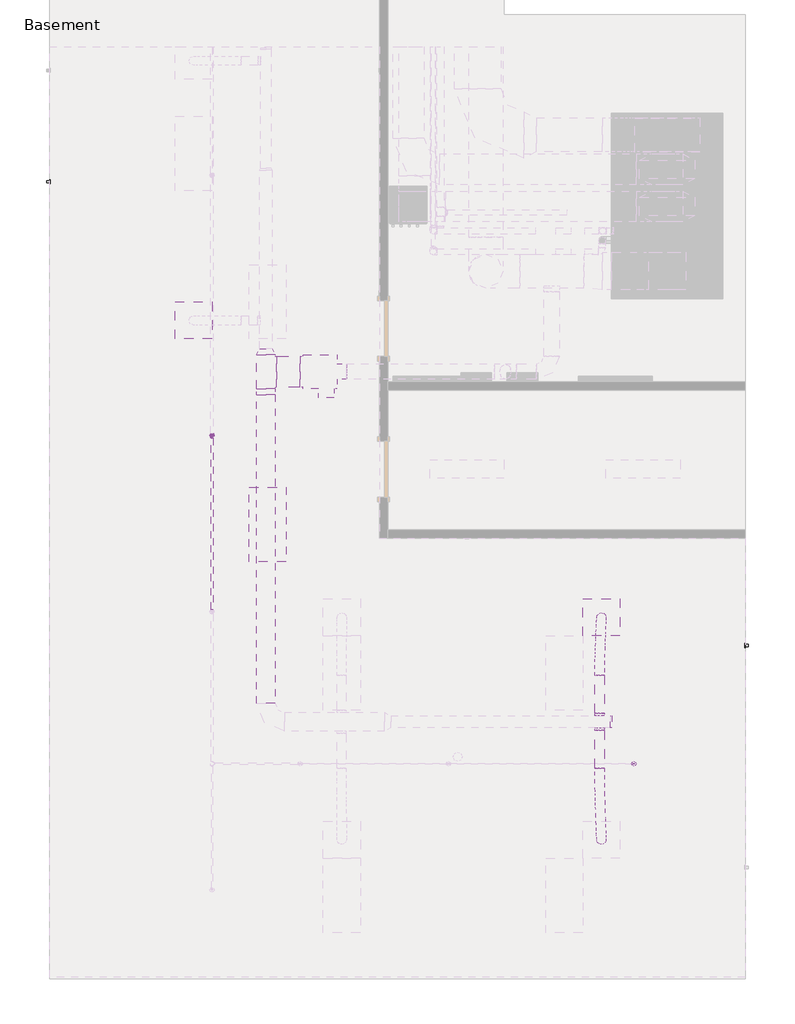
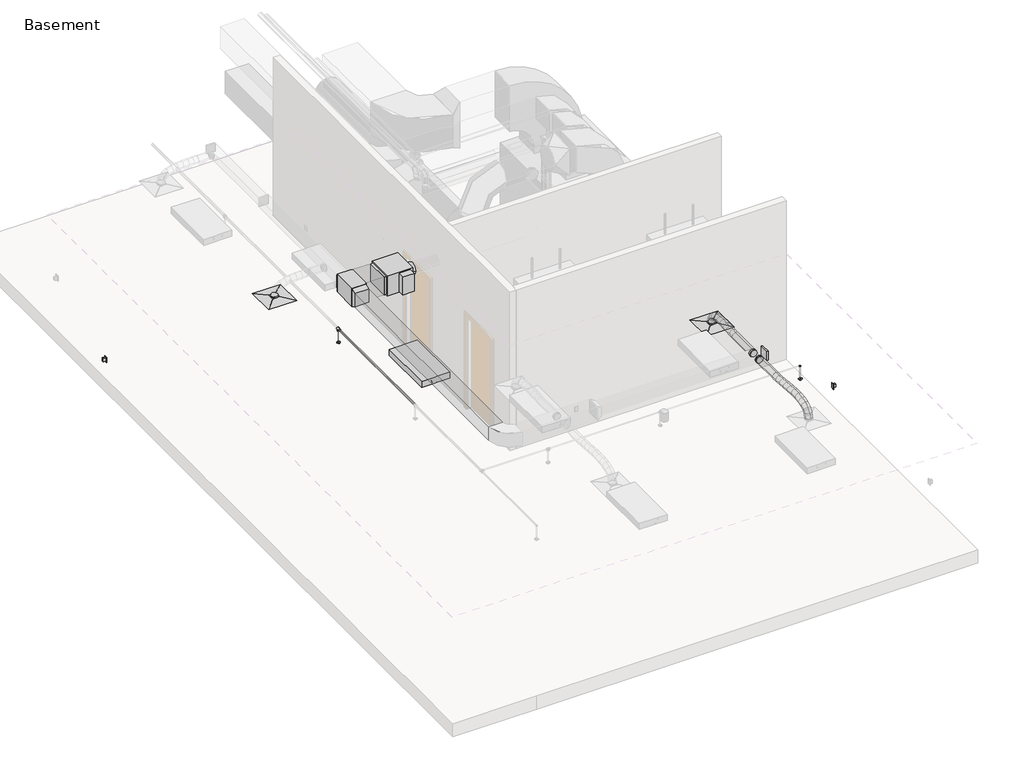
# One storey, part 3 of 6: 6 duct fittings, 6 duct segments, 5 pipe fittings, 3 pipe segments, 3 proxies, 2 air terminals, 2 fire suppression terminals, 1 light fixture.
"""IFC4 building model written with IfcOpenShell, lengths in millimetres."""

from ifc_helpers import new_model, si_unit, point, frame, frame_2d, origin, place, context, project, spatial, polyline, circle_curve, ellipse_curve, trimmed, segment, composite_curve, outline, extrude, transform, mapped, element, save
from ifc_brep_helpers import plane_surface, cylinder_surface, advanced_brep
from components import rectangular_diffuser_round_connection_24x24_6_neck_a21b6d18, receptacle_gfci_367a9a66, shut_off_vav_10_inch_df6e8142, rectangular_duct_endcap_standard_7cdf2de4, rectangular_duct_tee_standard_a3fae06d, rectangular_duct_transition_standard_66d162c5, rectangular_duct_transition_standard_b44764d7, round_duct_takeoff_standard_3fff5fc7, fire_suppression_terminal_51680e4f, light_fixture_84ca9390, pipe_elbow_standard_aad62f2d, pipe_tee_standard_7127fd44, pipe_transition_eccentric_standard_48f40522, pipe_transition_eccentric_standard_4aeee749, pipe_transition_eccentric_standard_a9eec213

model = new_model("IFC4")

# Units and contexts
model_context = context("Model", 3, world=origin())
ifc_project = project(units=[si_unit("LENGTHUNIT", "METRE", prefix="MILLI")], contexts=[model_context])

# Site, building, storey
site = spatial("IfcSite", under=ifc_project)
building = spatial("IfcBuilding", under=site)
storey = spatial("IfcBuildingStorey", under=building, Name="Basement", Elevation=-3657.6)

# Air terminals
placement = place(None, origin())
rectangular_diffuser_round_connection_24x24_6_neck_shape = rectangular_diffuser_round_connection_24x24_6_neck_a21b6d18(model_context)
element("IfcAirTerminal", 1, ObjectType="Rectangular Diffuser - Round Connection : 24x24 - 6 Neck", at=placement, inside=storey, context=model_context, shape_type="MappedRepresentation", body=[
    mapped(rectangular_diffuser_round_connection_24x24_6_neck_shape, transform((-2104.8439612, 4129.509643, -1219.2), x_axis=(1.0, 0.0, 0.0), y_axis=(0.0, 1.0, 0.0), z_axis=(0.0, 0.0, 1.0))),
])
element("IfcAirTerminal", 2, ObjectType="Rectangular Diffuser - Round Connection : 24x24 - 6 Neck", at=placement, inside=storey, context=model_context, shape_type="MappedRepresentation", body=[
    mapped(rectangular_diffuser_round_connection_24x24_6_neck_shape, transform((4600.7560388, -747.290357, -1219.2), x_axis=(1.0, 0.0, 0.0), y_axis=(0.0, 1.0, 0.0), z_axis=(0.0, 0.0, 1.0))),
])

# Proxies
receptacle_gfci_shape = receptacle_gfci_367a9a66(model_context)
element("IfcBuildingElementProxy", 3, Name="Receptacle : Standard", ObjectType="Receptacle : Standard", at=placement, inside=storey, context=model_context, shape_type="MappedRepresentation", body=[
    mapped(receptacle_gfci_shape, transform((6962.9560388, -1210.840357, -3200.4), x_axis=(0.0, -1.0, 0.0), y_axis=(0.0, 0.0, 1.0), z_axis=(-1.0, 0.0, 0.0))),
])
element("IfcBuildingElementProxy", 4, Name="Receptacle : Standard", ObjectType="Receptacle : Standard", at=placement, inside=storey, context=model_context, shape_type="MappedRepresentation", body=[
    mapped(receptacle_gfci_shape, transform((-4467.0439612, 6409.159643, -3200.4), x_axis=(0.0, 1.0, 0.0), y_axis=(0.0, 0.0, 1.0), z_axis=(1.0, 0.0, 0.0))),
])
shut_off_vav_10_inch_shape = shut_off_vav_10_inch_df6e8142(model_context)
element("IfcBuildingElementProxy", 5, Name="Shut off VAV : 10 Inch", ObjectType="Shut off VAV : 10 Inch", at=placement, inside=storey, context=model_context, shape_type="MappedRepresentation", body=[
    mapped(shut_off_vav_10_inch_shape, transform((-21.6912574, 3286.7197518, -914.4), x_axis=(0.0, -1.0, 0.0), y_axis=(1.0, 0.0, 0.0), z_axis=(0.0, 0.0, 1.0))),
])

# Duct fittings
rectangular_duct_endcap_standard_shape = rectangular_duct_endcap_standard_7cdf2de4(model_context)
element("IfcDuctFitting", 6, ObjectType="Rectangular Duct Endcap : Standard", at=placement, inside=storey, context=model_context, shape_type="MappedRepresentation", body=[
    mapped(rectangular_duct_endcap_standard_shape, transform((4745.8405538, -2464.4502377, -914.4), x_axis=(1.0, 0.0, 0.0), y_axis=(0.0, 1.0, 0.0), z_axis=(0.0, 0.0, 1.0))),
])
rectangular_duct_tee_standard_shape = rectangular_duct_tee_standard_a3fae06d(model_context)
element("IfcDuctFitting", 7, ObjectType="Rectangular Duct Tee : Standard", at=placement, inside=storey, context=model_context, shape_type="MappedRepresentation", body=[
    mapped(rectangular_duct_tee_standard_shape, transform((-915.1844462, 3286.7197518, -914.4), x_axis=(0.0, 1.0, 0.0), y_axis=(-1.0, 0.0, 0.0), z_axis=(0.0, 0.0, 1.0))),
])
rectangular_duct_transition_standard_shape = rectangular_duct_transition_standard_66d162c5(model_context)
element("IfcDuctFitting", 8, ObjectType="Rectangular Duct Transition : Standard", at=placement, inside=storey, context=model_context, shape_type="MappedRepresentation", body=[
    mapped(rectangular_duct_transition_standard_shape, transform((-915.1844462, 3667.7197518, -914.4), x_axis=(0.0, -1.0, 0.0), y_axis=(-1.0, 0.0, 0.0), z_axis=(0.0, 0.0, -1.0))),
])
rectangular_duct_transition_standard_2_shape = rectangular_duct_transition_standard_b44764d7(model_context)
element("IfcDuctFitting", 9, ObjectType="Rectangular Duct Transition : Standard", at=placement, inside=storey, context=model_context, shape_type="MappedRepresentation", body=[
    mapped(rectangular_duct_transition_standard_2_shape, transform((-915.1844462, 3007.3197518, -914.4), x_axis=(0.0, -1.0, 0.0), y_axis=(1.0, 0.0, 0.0), z_axis=(0.0, 0.0, 1.0))),
])
round_duct_takeoff_standard_shape = round_duct_takeoff_standard_3fff5fc7(model_context)
element("IfcDuctFitting", 10, ObjectType="Round Duct Takeoff : Standard", at=placement, inside=storey, context=model_context, shape_type="MappedRepresentation", body=[
    mapped(round_duct_takeoff_standard_shape, transform((4569.6280538, -2566.0502377, -914.4), x_axis=(0.0, -1.0, 0.0), y_axis=(-1.0, 0.0, 0.0), z_axis=(0.0, 0.0, -1.0))),
])
element("IfcDuctFitting", 11, ObjectType="Round Duct Takeoff : Standard", at=placement, inside=storey, context=model_context, shape_type="MappedRepresentation", body=[
    mapped(round_duct_takeoff_standard_shape, transform((4569.6280538, -2362.8502377, -914.4), x_axis=(0.0, 1.0, 0.0), y_axis=(1.0, 0.0, 0.0), z_axis=(0.0, 0.0, -1.0))),
])

# Duct segments
element("IfcDuctSegment", 12, ObjectType="Flex - Round", at=placement, inside=storey, context=model_context, shape_type="AdvancedBrep", body=[
    advanced_brep(
    [(4493.4305924, -1701.8282543, -914.4), (4569.6389403, -1701.1165709, -990.5883273), (4645.8255153, -1703.0722211, -914.4), (4569.6171674, -1703.7839046, -838.2116727), (4494.3058155, -1594.6070921, -912.5229823), (4570.5146434, -1593.8366061, -988.7102802), (4646.6934593, -1596.7428118, -912.5385934), (4570.4846314, -1597.5132978, -836.3512955), (4496.6863375, -1474.8329071, -908.8379822), (4572.8823854, -1474.7054376, -985.0450633), (4649.0443911, -1478.457435, -908.8993983), (4572.8483432, -1478.5849045, -832.6923172), (4500.1869061, -1348.5689173, -906.2909502), (4576.3237346, -1350.5774652, -982.5411196), (4652.5164911, -1353.2202936, -906.3730801), (4576.3796626, -1351.2117458, -830.1229107), (4504.4328629, -1221.2549423, -907.8024737), (4580.443995, -1227.0324679, -984.0078963), (4656.7373462, -1226.6589892, -907.8756676), (4580.7262141, -1220.8814636, -831.6702451), (4509.0505541, -1098.3778967, -916.291329), (4584.8375906, -1110.1186178, -992.0847893), (4661.3335386, -1104.354028, -916.3250009), (4585.546502, -1092.6133069, -840.5315406), (4513.666401, -985.4493721, -934.6762392), (4589.0744564, -1006.4620169, -1008.9602183), (4665.9315752, -991.8612394, -934.6389728), (4590.5235198, -970.8485946, -860.3549937), (4517.906453, -888.000026, -965.8732348), (4592.6922603, -923.3138338, -1035.5789039), (4670.1583351, -894.7173868, -965.7381691), (4595.3725278, -859.403579, -896.0325), (4521.396089, -811.5788889, -1012.782677), (4595.2667877, -866.933079, -1070.1869961), (4673.6413677, -818.4408609, -1012.5588448), (4599.770669, -763.0866707, -955.1545257), (4523.7613306, -761.7217648, -1078.2695709), (4596.7239326, -836.2178006, -1110.5312441), (4676.0075798, -768.5632783, -1078.0726109), (4603.0449779, -694.0672425, -1045.8109377), (4524.6325508, -743.8770445, -1165.2871795), (4604.0871157, -672.7217082, -1149.8998398), (4676.8795268, -750.7036696, -1165.1628205), (4597.4249618, -821.8590059, -1180.5501602)],
    [
        (0, 1, circle_curve(frame((4569.6280538, -1702.4502377, -914.4), z_axis=(-0.008161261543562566, -0.9998135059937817, -0.017502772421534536), x_axis=(-0.9999666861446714, 0.008162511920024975, 0.0)), 76.2)),
        (1, 2, circle_curve(frame((4569.6280538, -1702.4502377, -914.4), z_axis=(-0.008161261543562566, -0.9998135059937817, -0.017502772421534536), x_axis=(-0.9999666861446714, 0.008162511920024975, 0.0)), 76.2)),
        (2, 3, circle_curve(frame((4569.6280538, -1702.4502377, -914.4), z_axis=(-0.008161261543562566, -0.9998135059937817, -0.017502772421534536), x_axis=(-0.9999666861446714, 0.008162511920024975, 0.0)), 76.2)),
        (3, 0, circle_curve(frame((4569.6280538, -1702.4502377, -914.4), z_axis=(-0.008161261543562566, -0.9998135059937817, -0.017502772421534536), x_axis=(-0.9999666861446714, 0.008162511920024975, 0.0)), 76.2)),
        (0, 4),
        (4, 5, ellipse_curve(frame((4570.4996374, -1595.674952, -912.5307879), z_axis=(-0.01401206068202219, -0.9996107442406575, -0.024125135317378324), x_axis=(0.6618714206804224, -0.027357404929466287, 0.7491180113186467)), 76.2029768, 76.2)),
        (5, 1),
        (5, 6, ellipse_curve(frame((4570.4996374, -1595.674952, -912.5307879), z_axis=(-0.01401206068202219, -0.9996107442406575, -0.024125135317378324), x_axis=(0.6618714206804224, -0.027357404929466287, 0.7491180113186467)), 76.2029768, 76.2)),
        (6, 2),
        (6, 7, ellipse_curve(frame((4570.4996374, -1595.674952, -912.5307879), z_axis=(-0.01401206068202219, -0.9996107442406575, -0.024125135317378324), x_axis=(0.6618714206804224, -0.027357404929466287, 0.7491180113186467)), 76.2029768, 76.2)),
        (7, 3),
        (7, 4, ellipse_curve(frame((4570.4996374, -1595.674952, -912.5307879), z_axis=(-0.01401206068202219, -0.9996107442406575, -0.024125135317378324), x_axis=(0.6618714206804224, -0.027357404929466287, 0.7491180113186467)), 76.2029768, 76.2)),
        (4, 8),
        (8, 9, ellipse_curve(frame((4572.8653643, -1476.6451711, -908.8686902), z_axis=(-0.023785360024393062, -0.9993930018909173, -0.025453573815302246), x_axis=(0.5954745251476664, 0.00628835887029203, -0.8033495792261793)), 76.2016537, 76.2)),
        (9, 5),
        (9, 10, ellipse_curve(frame((4572.8653643, -1476.6451711, -908.8686902), z_axis=(-0.023785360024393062, -0.9993930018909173, -0.025453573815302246), x_axis=(0.5954745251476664, 0.00628835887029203, -0.8033495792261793)), 76.2016537, 76.2)),
        (10, 6),
        (10, 11, ellipse_curve(frame((4572.8653643, -1476.6451711, -908.8686902), z_axis=(-0.023785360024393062, -0.9993930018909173, -0.025453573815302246), x_axis=(0.5954745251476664, 0.00628835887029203, -0.8033495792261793)), 76.2016537, 76.2)),
        (11, 7),
        (11, 8, ellipse_curve(frame((4572.8653643, -1476.6451711, -908.8686902), z_axis=(-0.023785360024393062, -0.9993930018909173, -0.025453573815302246), x_axis=(0.5954745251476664, 0.00628835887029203, -0.8033495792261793)), 76.2016537, 76.2)),
        (8, 12),
        (12, 13, ellipse_curve(frame((4576.3516986, -1350.8946055, -906.3320151), z_axis=(-0.030522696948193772, -0.9995254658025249, -0.0041482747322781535), x_axis=(0.17288852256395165, -0.001191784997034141, -0.9849406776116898)), 76.2100721, 76.2)),
        (13, 9),
        (13, 14, ellipse_curve(frame((4576.3516986, -1350.8946055, -906.3320151), z_axis=(-0.030522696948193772, -0.9995254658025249, -0.0041482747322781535), x_axis=(0.17288852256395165, -0.001191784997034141, -0.9849406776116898)), 76.2100721, 76.2)),
        (14, 10),
        (14, 15, ellipse_curve(frame((4576.3516986, -1350.8946055, -906.3320151), z_axis=(-0.030522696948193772, -0.9995254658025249, -0.0041482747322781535), x_axis=(0.17288852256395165, -0.001191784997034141, -0.9849406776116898)), 76.2100721, 76.2)),
        (15, 11),
        (15, 12, ellipse_curve(frame((4576.3516986, -1350.8946055, -906.3320151), z_axis=(-0.030522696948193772, -0.9995254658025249, -0.0041482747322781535), x_axis=(0.17288852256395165, -0.001191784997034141, -0.9849406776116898)), 76.2100721, 76.2)),
        (12, 16),
        (16, 17, ellipse_curve(frame((4580.5851045, -1223.9569658, -907.8390707), z_axis=(-0.035411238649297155, -0.9985565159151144, 0.040384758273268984), x_axis=(0.07227363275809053, -0.042863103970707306, -0.9964633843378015)), 76.2311931, 76.2)),
        (17, 13),
        (17, 18, ellipse_curve(frame((4580.5851045, -1223.9569658, -907.8390707), z_axis=(-0.035411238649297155, -0.9985565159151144, 0.040384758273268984), x_axis=(0.07227363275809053, -0.042863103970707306, -0.9964633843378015)), 76.2311931, 76.2)),
        (18, 14),
        (18, 19, ellipse_curve(frame((4580.5851045, -1223.9569658, -907.8390707), z_axis=(-0.035411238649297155, -0.9985565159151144, 0.040384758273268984), x_axis=(0.07227363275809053, -0.042863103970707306, -0.9964633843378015)), 76.2311931, 76.2)),
        (19, 15),
        (19, 16, ellipse_curve(frame((4580.5851045, -1223.9569658, -907.8390707), z_axis=(-0.035411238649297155, -0.9985565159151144, 0.040384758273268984), x_axis=(0.07227363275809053, -0.042863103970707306, -0.9964633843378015)), 76.2311931, 76.2)),
        (16, 20),
        (20, 21, ellipse_curve(frame((4585.1920463, -1101.3659623, -916.3081649), z_axis=(-0.03892863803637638, -0.9926214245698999, 0.11483583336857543), x_axis=(0.030817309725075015, -0.11606090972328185, -0.9927638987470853)), 76.2813678, 76.2)),
        (21, 17),
        (21, 22, ellipse_curve(frame((4585.1920463, -1101.3659623, -916.3081649), z_axis=(-0.03892863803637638, -0.9926214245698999, 0.11483583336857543), x_axis=(0.030817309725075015, -0.11606090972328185, -0.9927638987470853)), 76.2813678, 76.2)),
        (22, 18),
        (22, 23, ellipse_curve(frame((4585.1920463, -1101.3659623, -916.3081649), z_axis=(-0.03892863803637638, -0.9926214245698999, 0.11483583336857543), x_axis=(0.030817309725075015, -0.11606090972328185, -0.9927638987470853)), 76.2813678, 76.2)),
        (23, 19),
        (23, 20, ellipse_curve(frame((4585.1920463, -1101.3659623, -916.3081649), z_axis=(-0.03892863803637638, -0.9926214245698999, 0.11483583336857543), x_axis=(0.030817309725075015, -0.11606090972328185, -0.9927638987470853)), 76.2813678, 76.2)),
        (20, 24),
        (24, 25, ellipse_curve(frame((4589.7989881, -988.6553057, -934.657606), z_axis=(-0.04096923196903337, -0.9715571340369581, 0.23323433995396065), x_axis=(0.0073758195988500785, -0.23371804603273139, -0.9722764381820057)), 76.4100208, 76.2)),
        (25, 21),
        (25, 26, ellipse_curve(frame((4589.7989881, -988.6553057, -934.657606), z_axis=(-0.04096923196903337, -0.9715571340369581, 0.23323433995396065), x_axis=(0.0073758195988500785, -0.23371804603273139, -0.9722764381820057)), 76.4100208, 76.2)),
        (26, 22),
        (26, 27, ellipse_curve(frame((4589.7989881, -988.6553057, -934.657606), z_axis=(-0.04096923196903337, -0.9715571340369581, 0.23323433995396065), x_axis=(0.0073758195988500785, -0.23371804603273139, -0.9722764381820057)), 76.4100208, 76.2)),
        (27, 23),
        (27, 24, ellipse_curve(frame((4589.7989881, -988.6553057, -934.657606), z_axis=(-0.04096923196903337, -0.9715571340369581, 0.23323433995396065), x_axis=(0.0073758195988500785, -0.23371804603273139, -0.9722764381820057)), 76.4100208, 76.2)),
        (24, 28),
        (28, 29, ellipse_curve(frame((4594.032394, -891.3587064, -965.805702), z_axis=(-0.04043713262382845, -0.90814661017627, 0.4166948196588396), x_axis=(-0.010486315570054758, -0.41662723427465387, -0.9090169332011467)), 76.7543486, 76.2)),
        (29, 25),
        (29, 30, ellipse_curve(frame((4594.032394, -891.3587064, -965.805702), z_axis=(-0.04043713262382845, -0.90814661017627, 0.4166948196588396), x_axis=(-0.010486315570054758, -0.41662723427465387, -0.9090169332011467)), 76.7543486, 76.2)),
        (30, 26),
        (30, 31, ellipse_curve(frame((4594.032394, -891.3587064, -965.805702), z_axis=(-0.04043713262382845, -0.90814661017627, 0.4166948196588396), x_axis=(-0.010486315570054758, -0.41662723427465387, -0.9090169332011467)), 76.7543486, 76.2)),
        (31, 27),
        (31, 28, ellipse_curve(frame((4594.032394, -891.3587064, -965.805702), z_axis=(-0.04043713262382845, -0.90814661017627, 0.4166948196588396), x_axis=(-0.010486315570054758, -0.41662723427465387, -0.9090169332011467)), 76.7543486, 76.2)),
        (28, 32),
        (32, 33, ellipse_curve(frame((4597.5187284, -815.0098749, -1012.6707609), z_axis=(-0.0343914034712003, -0.7411663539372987, 0.6704399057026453), x_axis=(-0.0276595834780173, -0.6698739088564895, -0.7419594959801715)), 77.519082, 76.2)),
        (33, 29),
        (33, 34, ellipse_curve(frame((4597.5187284, -815.0098749, -1012.6707609), z_axis=(-0.0343914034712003, -0.7411663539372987, 0.6704399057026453), x_axis=(-0.0276595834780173, -0.6698739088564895, -0.7419594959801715)), 77.519082, 76.2)),
        (34, 30),
        (34, 35, ellipse_curve(frame((4597.5187284, -815.0098749, -1012.6707609), z_axis=(-0.0343914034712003, -0.7411663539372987, 0.6704399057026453), x_axis=(-0.0276595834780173, -0.6698739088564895, -0.7419594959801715)), 77.519082, 76.2)),
        (35, 31),
        (35, 32, ellipse_curve(frame((4597.5187284, -815.0098749, -1012.6707609), z_axis=(-0.0343914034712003, -0.7411663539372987, 0.6704399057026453), x_axis=(-0.0276595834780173, -0.6698739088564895, -0.7419594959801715)), 77.519082, 76.2)),
        (32, 36),
        (36, 37, ellipse_curve(frame((4599.8844552, -765.1425216, -1078.1710909), z_axis=(-0.019761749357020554, -0.4135586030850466, 0.9102630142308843), x_axis=(-0.04251230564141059, -0.9092698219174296, -0.41403030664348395)), 78.159229, 76.2)),
        (37, 33),
        (37, 38, ellipse_curve(frame((4599.8844552, -765.1425216, -1078.1710909), z_axis=(-0.019761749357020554, -0.4135586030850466, 0.9102630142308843), x_axis=(-0.04251230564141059, -0.9092698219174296, -0.41403030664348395)), 78.159229, 76.2)),
        (38, 34),
        (38, 39, ellipse_curve(frame((4599.8844552, -765.1425216, -1078.1710909), z_axis=(-0.019761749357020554, -0.4135586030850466, 0.9102630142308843), x_axis=(-0.04251230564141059, -0.9092698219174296, -0.41403030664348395)), 78.159229, 76.2)),
        (39, 35),
        (39, 36, ellipse_curve(frame((4599.8844552, -765.1425216, -1078.1710909), z_axis=(-0.019761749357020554, -0.4135586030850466, 0.9102630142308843), x_axis=(-0.04251230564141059, -0.9092698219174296, -0.41403030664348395)), 78.159229, 76.2)),
        (40, 41, circle_curve(frame((4600.7560388, -747.290357, -1165.225), z_axis=(0.009807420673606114, 0.20087997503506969, -0.9795667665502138), x_axis=(-0.9989959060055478, 0.044794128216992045, -0.0008160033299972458)), 76.2)),
        (41, 42, circle_curve(frame((4600.7560388, -747.290357, -1165.225), z_axis=(0.009807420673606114, 0.20087997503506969, -0.9795667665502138), x_axis=(-0.9989959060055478, 0.044794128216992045, -0.0008160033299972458)), 76.2)),
        (42, 43, circle_curve(frame((4600.7560388, -747.290357, -1165.225), z_axis=(0.009807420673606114, 0.20087997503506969, -0.9795667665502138), x_axis=(-0.9989959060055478, 0.044794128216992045, -0.0008160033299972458)), 76.2)),
        (43, 40, circle_curve(frame((4600.7560388, -747.290357, -1165.225), z_axis=(0.009807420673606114, 0.20087997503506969, -0.9795667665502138), x_axis=(-0.9989959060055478, 0.044794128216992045, -0.0008160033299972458)), 76.2)),
        (36, 40),
        (43, 37),
        (42, 38),
        (41, 39),
    ],
    [
        plane_surface(frame((4569.6280538, -1703.7839934, -838.2116735), z_axis=(-0.008161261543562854, -0.9998135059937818, -0.017502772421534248), x_axis=(0.9999666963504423, -0.0081600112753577, -0.0001428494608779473))),
        cylinder_surface(frame((4569.6280538, -1702.4502377, -914.4), z_axis=(-0.008161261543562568, -0.9998135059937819, -0.01750277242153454), x_axis=(-0.9999666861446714, 0.008162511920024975, 0.0)), 76.2),
        cylinder_surface(frame((4570.4996374, -1595.674952, -912.5307879), z_axis=(-0.019861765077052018, -0.9993298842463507, -0.030745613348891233), x_axis=(-0.9998026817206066, 0.0198624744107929, 0.0002823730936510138)), 76.2),
        cylinder_surface(frame((4572.8653643, -1476.6451711, -908.8686902), z_axis=(-0.027707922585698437, -0.999412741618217, -0.02016042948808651), x_axis=(-0.9996160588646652, 0.027703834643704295, 0.0004820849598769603)), 76.2),
        cylinder_surface(frame((4576.3516986, -1350.8946055, -906.3320151), z_axis=(-0.03332940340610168, -0.9993739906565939, 0.011864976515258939), x_axis=(-0.999444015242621, 0.033337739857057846, 0.0005054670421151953)), 76.2),
        cylinder_surface(frame((4580.5851045, -1223.9569658, -907.8390707), z_axis=(-0.037464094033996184, -0.9969218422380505, 0.06887148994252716), x_axis=(-0.9992937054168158, 0.03757630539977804, 0.0003340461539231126)), 76.2),
        cylinder_surface(frame((4585.1920463, -1101.3659623, -916.3081649), z_axis=(-0.04031013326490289, -0.986203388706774, 0.16055519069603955), x_axis=(-0.9991659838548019, 0.040833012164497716, -4.272048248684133e-05)), 76.2),
        cylinder_surface(frame((4589.7989881, -988.6553057, -934.657606), z_axis=(-0.041403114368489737, -0.9515700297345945, 0.30463135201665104), x_axis=(-0.999063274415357, 0.043268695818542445, -0.0006274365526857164)), 76.2),
        cylinder_surface(frame((4594.032394, -891.3587064, -965.805702), z_axis=(-0.03888704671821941, -0.8516052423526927, 0.522739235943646), x_axis=(-0.9989950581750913, 0.04480071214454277, -0.0013303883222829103)), 76.2),
        cylinder_surface(frame((4597.5187284, -815.0098749, -1012.6707609), z_axis=(-0.028725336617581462, -0.6055037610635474, 0.7953238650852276), x_axis=(-0.9989771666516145, 0.045186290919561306, -0.001679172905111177)), 76.2),
        plane_surface(frame((4600.7560388, -672.6437794, -1149.9172097), z_axis=(0.009807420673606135, 0.20087997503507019, -0.9795667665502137), x_axis=(0.9999519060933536, -0.001970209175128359, 0.009607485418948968))),
        cylinder_surface(frame((4599.8844552, -765.1425216, -1078.1710909), z_axis=(-0.009807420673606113, -0.20087997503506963, 0.9795667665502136), x_axis=(-0.9989959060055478, 0.044794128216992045, -0.0008160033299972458)), 76.2),
    ],
    [
        (0, [[1, 2, 3, 4]]),
        (1, [[-1, 5, 6, 7]]),
        (1, [[-2, -7, 8, 9]]),
        (1, [[-3, -9, 10, 11]]),
        (1, [[-4, -11, 12, -5]]),
        (2, [[-6, 13, 14, 15]]),
        (2, [[-8, -15, 16, 17]]),
        (2, [[-10, -17, 18, 19]]),
        (2, [[-12, -19, 20, -13]]),
        (3, [[-14, 21, 22, 23]]),
        (3, [[-16, -23, 24, 25]]),
        (3, [[-18, -25, 26, 27]]),
        (3, [[-20, -27, 28, -21]]),
        (4, [[-22, 29, 30, 31]]),
        (4, [[-24, -31, 32, 33]]),
        (4, [[-26, -33, 34, 35]]),
        (4, [[-28, -35, 36, -29]]),
        (5, [[-30, 37, 38, 39]]),
        (5, [[-32, -39, 40, 41]]),
        (5, [[-34, -41, 42, 43]]),
        (5, [[-36, -43, 44, -37]]),
        (6, [[-38, 45, 46, 47]]),
        (6, [[-40, -47, 48, 49]]),
        (6, [[-42, -49, 50, 51]]),
        (6, [[-44, -51, 52, -45]]),
        (7, [[-46, 53, 54, 55]]),
        (7, [[-48, -55, 56, 57]]),
        (7, [[-50, -57, 58, 59]]),
        (7, [[-52, -59, 60, -53]]),
        (8, [[-54, 61, 62, 63]]),
        (8, [[-56, -63, 64, 65]]),
        (8, [[-58, -65, 66, 67]]),
        (8, [[-60, -67, 68, -61]]),
        (9, [[-62, 69, 70, 71]]),
        (9, [[-64, -71, 72, 73]]),
        (9, [[-66, -73, 74, 75]]),
        (9, [[-68, -75, 76, -69]]),
        (10, [[77, 78, 79, 80]]),
        (11, [[-70, 81, -80, 82]]),
        (11, [[-72, -82, -79, 83]]),
        (11, [[-74, -83, -78, 84]]),
        (11, [[-76, -84, -77, -81]]),
    ],
),
])
element("IfcDuctSegment", 13, ObjectType="Flex - Round", at=placement, inside=storey, context=model_context, shape_type="AdvancedBrep", body=[
    advanced_brep(
    [(4645.8266156, -3225.9820652, -914.4), (4569.6407978, -3228.5244132, -990.571764), (4493.4294921, -3226.9184103, -914.4), (4569.6153099, -3224.3760623, -838.228236), (4646.5495108, -3343.6386335, -911.1960624), (4570.3728078, -3347.6644705, -987.3274292), (4494.1565856, -3345.2582882, -911.177455), (4570.3332887, -3341.2324512, -835.0460883), (4648.5287095, -3474.4634416, -903.703702), (4572.3806964, -3480.3856803, -979.7264615), (4496.1531627, -3477.2318043, -903.6193079), (4572.3011758, -3471.3095655, -827.5965485), (4651.4902709, -3613.6689281, -895.0631645), (4575.3421569, -3619.5864237, -971.0862183), (4499.1318778, -3617.2435867, -894.9287233), (4575.2799919, -3611.3260911, -818.9056694), (4655.1542758, -3755.994877, -888.4429875), (4578.9631772, -3760.2426648, -964.5437065), (4502.8113646, -3760.1709187, -888.2805734), (4579.0024632, -3755.9231309, -812.1798545), (4659.2401497, -3896.2134487, -887.0143173), (4582.9464914, -3896.9416012, -963.1508974), (4506.9109111, -3900.8587065, -886.8471224), (4583.2045695, -3900.130554, -810.7105423), (4663.4671807, -4029.1130338, -893.948221), (4586.9830717, -4023.8533403, -969.7723912), (4511.1499437, -4034.1356266, -893.8007132), (4587.6340527, -4039.3953202, -817.976543), (4667.5547139, -4149.4924273, -912.4150922), (4590.7426777, -4134.5751545, -986.7577358), (4515.247831, -4154.8199509, -912.3143625), (4592.0598672, -4169.7372238, -837.9717189), (4671.2223353, -4252.1609694, -945.5862677), (4593.8725874, -4222.1914131, -1015.0656696), (4518.9237012, -4257.7194061, -945.5601437), (4596.2734491, -4287.6889625, -876.0807418), (4674.1900571, -4331.9406815, -996.6430967), (4596.0762868, -4281.4323104, -1052.9782201), (4521.896256, -4337.6290379, -996.7001177), (4600.0100263, -4388.137409, -940.3649943), (4676.1776324, -4383.6464278, -1068.7917788), (4597.3607852, -4314.8478746, -1099.6053185), (4523.8844564, -4389.3510488, -1068.8714951), (4602.7013036, -4458.149602, -1038.0579553), (4676.9027092, -4402.0401373, -1165.1961001), (4603.5502614, -4479.6859185, -1150.9331732), (4524.6093684, -4407.7405767, -1165.2538999), (4597.9618162, -4330.0947956, -1179.5168268)],
    [
        (0, 1, circle_curve(frame((4569.6280538, -3226.4502377, -914.4), z_axis=(-0.0061417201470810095, 0.9996105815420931, -0.027220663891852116), x_axis=(0.9999811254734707, 0.006143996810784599, 0.0)), 76.2)),
        (1, 2, circle_curve(frame((4569.6280538, -3226.4502377, -914.4), z_axis=(-0.0061417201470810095, 0.9996105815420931, -0.027220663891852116), x_axis=(0.9999811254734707, 0.006143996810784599, 0.0)), 76.2)),
        (2, 3, circle_curve(frame((4569.6280538, -3226.4502377, -914.4), z_axis=(-0.0061417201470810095, 0.9996105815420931, -0.027220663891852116), x_axis=(0.9999811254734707, 0.006143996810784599, 0.0)), 76.2)),
        (3, 0, circle_curve(frame((4569.6280538, -3226.4502377, -914.4), z_axis=(-0.0061417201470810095, 0.9996105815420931, -0.027220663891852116), x_axis=(0.9999811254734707, 0.006143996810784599, 0.0)), 76.2)),
        (0, 4),
        (4, 5, ellipse_curve(frame((4570.3530482, -3344.4484608, -911.1867587), z_axis=(-0.010623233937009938, 0.9990526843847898, -0.04220048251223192), x_axis=(0.2863617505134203, 0.04347481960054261, 0.9571347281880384)), 76.2093276, 76.2)),
        (5, 1),
        (5, 6, ellipse_curve(frame((4570.3530482, -3344.4484608, -911.1867587), z_axis=(-0.010623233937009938, 0.9990526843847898, -0.04220048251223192), x_axis=(0.2863617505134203, 0.04347481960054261, 0.9571347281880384)), 76.2093276, 76.2)),
        (6, 2),
        (6, 7, ellipse_curve(frame((4570.3530482, -3344.4484608, -911.1867587), z_axis=(-0.010623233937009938, 0.9990526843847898, -0.04220048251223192), x_axis=(0.2863617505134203, 0.04347481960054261, 0.9571347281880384)), 76.2093276, 76.2)),
        (7, 3),
        (7, 4, ellipse_curve(frame((4570.3530482, -3344.4484608, -911.1867587), z_axis=(-0.010623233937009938, 0.9990526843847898, -0.04220048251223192), x_axis=(0.2863617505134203, 0.04347481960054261, 0.9571347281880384)), 76.2093276, 76.2)),
        (4, 8),
        (8, 9, ellipse_curve(frame((4572.3409361, -3475.8476229, -903.661505), z_axis=(-0.018165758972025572, 0.9980597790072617, -0.05955403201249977), x_axis=(0.7882140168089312, 0.050941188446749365, 0.6132892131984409)), 76.2005755, 76.2)),
        (9, 5),
        (9, 10, ellipse_curve(frame((4572.3409361, -3475.8476229, -903.661505), z_axis=(-0.018165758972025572, 0.9980597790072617, -0.05955403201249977), x_axis=(0.7882140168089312, 0.050941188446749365, 0.6132892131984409)), 76.2005755, 76.2)),
        (10, 6),
        (10, 11, ellipse_curve(frame((4572.3409361, -3475.8476229, -903.661505), z_axis=(-0.018165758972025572, 0.9980597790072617, -0.05955403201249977), x_axis=(0.7882140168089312, 0.050941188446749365, 0.6132892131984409)), 76.2005755, 76.2)),
        (11, 7),
        (11, 8, ellipse_curve(frame((4572.3409361, -3475.8476229, -903.661505), z_axis=(-0.018165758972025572, 0.9980597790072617, -0.05955403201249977), x_axis=(0.7882140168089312, 0.050941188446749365, 0.6132892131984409)), 76.2005755, 76.2)),
        (8, 12),
        (12, 13, ellipse_curve(frame((4575.3110744, -3615.4562574, -894.9959439), z_axis=(-0.023469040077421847, 0.9982545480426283, -0.054194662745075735), x_axis=(0.2774729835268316, -0.045575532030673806, -0.9596518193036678)), 76.2024813, 76.2)),
        (13, 9),
        (13, 14, ellipse_curve(frame((4575.3110744, -3615.4562574, -894.9959439), z_axis=(-0.023469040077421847, 0.9982545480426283, -0.054194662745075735), x_axis=(0.2774729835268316, -0.045575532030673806, -0.9596518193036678)), 76.2024813, 76.2)),
        (14, 10),
        (14, 15, ellipse_curve(frame((4575.3110744, -3615.4562574, -894.9959439), z_axis=(-0.023469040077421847, 0.9982545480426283, -0.054194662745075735), x_axis=(0.2774729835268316, -0.045575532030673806, -0.9596518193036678)), 76.2024813, 76.2)),
        (15, 11),
        (15, 12, ellipse_curve(frame((4575.3110744, -3615.4562574, -894.9959439), z_axis=(-0.023469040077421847, 0.9982545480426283, -0.054194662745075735), x_axis=(0.2774729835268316, -0.045575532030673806, -0.9596518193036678)), 76.2024813, 76.2)),
        (12, 16),
        (16, 17, ellipse_curve(frame((4578.9828202, -3758.0828978, -888.3617805), z_axis=(-0.0274210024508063, 0.9992227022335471, -0.0283210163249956), x_axis=(0.09380483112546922, -0.02563449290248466, -0.9952605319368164)), 76.2126492, 76.2)),
        (17, 13),
        (17, 18, ellipse_curve(frame((4578.9828202, -3758.0828978, -888.3617805), z_axis=(-0.0274210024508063, 0.9992227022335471, -0.0283210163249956), x_axis=(0.09380483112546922, -0.02563449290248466, -0.9952605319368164)), 76.2126492, 76.2)),
        (18, 14),
        (18, 19, ellipse_curve(frame((4578.9828202, -3758.0828978, -888.3617805), z_axis=(-0.0274210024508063, 0.9992227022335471, -0.0283210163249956), x_axis=(0.09380483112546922, -0.02563449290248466, -0.9952605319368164)), 76.2126492, 76.2)),
        (19, 15),
        (19, 16, ellipse_curve(frame((4578.9828202, -3758.0828978, -888.3617805), z_axis=(-0.0274210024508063, 0.9992227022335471, -0.0283210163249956), x_axis=(0.09380483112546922, -0.02563449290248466, -0.9952605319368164)), 76.2126492, 76.2)),
        (16, 20),
        (20, 21, ellipse_curve(frame((4583.0755304, -3898.5360776, -886.9307198), z_axis=(-0.030451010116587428, 0.99931654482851, 0.02095660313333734), x_axis=(0.04205807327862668, 0.022228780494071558, -0.9988678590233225)), 76.2370336, 76.2)),
        (21, 17),
        (21, 22, ellipse_curve(frame((4583.0755304, -3898.5360776, -886.9307198), z_axis=(-0.030451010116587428, 0.99931654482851, 0.02095660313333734), x_axis=(0.04205807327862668, 0.022228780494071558, -0.9988678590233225)), 76.2370336, 76.2)),
        (22, 18),
        (22, 23, ellipse_curve(frame((4583.0755304, -3898.5360776, -886.9307198), z_axis=(-0.030451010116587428, 0.99931654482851, 0.02095660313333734), x_axis=(0.04205807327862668, 0.022228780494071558, -0.9988678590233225)), 76.2370336, 76.2)),
        (23, 19),
        (23, 20, ellipse_curve(frame((4583.0755304, -3898.5360776, -886.9307198), z_axis=(-0.030451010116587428, 0.99931654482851, 0.02095660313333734), x_axis=(0.04205807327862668, 0.022228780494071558, -0.9988678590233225)), 76.2370336, 76.2)),
        (20, 24),
        (24, 25, ellipse_curve(frame((4587.3085622, -4031.6243302, -893.8744671), z_axis=(-0.032686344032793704, 0.9942534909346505, 0.10193919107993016), x_axis=(0.017966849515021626, 0.10256172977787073, -0.9945643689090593)), 76.2954542, 76.2)),
        (25, 21),
        (25, 26, ellipse_curve(frame((4587.3085622, -4031.6243302, -893.8744671), z_axis=(-0.032686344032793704, 0.9942534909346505, 0.10193919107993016), x_axis=(0.017966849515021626, 0.10256172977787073, -0.9945643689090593)), 76.2954542, 76.2)),
        (26, 22),
        (26, 27, ellipse_curve(frame((4587.3085622, -4031.6243302, -893.8744671), z_axis=(-0.032686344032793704, 0.9942534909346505, 0.10193919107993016), x_axis=(0.017966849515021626, 0.10256172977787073, -0.9945643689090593)), 76.2954542, 76.2)),
        (27, 23),
        (27, 24, ellipse_curve(frame((4587.3085622, -4031.6243302, -893.8744671), z_axis=(-0.032686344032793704, 0.9942534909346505, 0.10193919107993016), x_axis=(0.017966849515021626, 0.10256172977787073, -0.9945643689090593)), 76.2954542, 76.2)),
        (24, 28),
        (28, 29, ellipse_curve(frame((4591.4012725, -4152.1561891, -912.3647274), z_axis=(-0.03386710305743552, 0.9725672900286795, 0.23014318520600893), x_axis=(0.0026822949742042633, 0.23036290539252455, -0.9731010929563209)), 76.4450852, 76.2)),
        (29, 25),
        (29, 30, ellipse_curve(frame((4591.4012725, -4152.1561891, -912.3647274), z_axis=(-0.03386710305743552, 0.9725672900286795, 0.23014318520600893), x_axis=(0.0026822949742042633, 0.23036290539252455, -0.9731010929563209)), 76.4450852, 76.2)),
        (30, 26),
        (30, 31, ellipse_curve(frame((4591.4012725, -4152.1561891, -912.3647274), z_axis=(-0.03386710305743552, 0.9725672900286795, 0.23014318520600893), x_axis=(0.0026822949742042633, 0.23036290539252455, -0.9731010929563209)), 76.4450852, 76.2)),
        (31, 27),
        (31, 28, ellipse_curve(frame((4591.4012725, -4152.1561891, -912.3647274), z_axis=(-0.03386710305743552, 0.9725672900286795, 0.23014318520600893), x_axis=(0.0026822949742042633, 0.23036290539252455, -0.9731010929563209)), 76.4450852, 76.2)),
        (28, 32),
        (32, 33, ellipse_curve(frame((4595.0730183, -4254.9401878, -945.5732057), z_axis=(-0.03291556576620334, 0.9038761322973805, 0.4265260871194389), x_axis=(-0.010378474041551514, 0.4264252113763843, -0.9044632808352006)), 76.8318197, 76.2)),
        (33, 29),
        (33, 34, ellipse_curve(frame((4595.0730183, -4254.9401878, -945.5732057), z_axis=(-0.03291556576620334, 0.9038761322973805, 0.4265260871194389), x_axis=(-0.010378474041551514, 0.4264252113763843, -0.9044632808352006)), 76.8318197, 76.2)),
        (34, 30),
        (34, 35, ellipse_curve(frame((4595.0730183, -4254.9401878, -945.5732057), z_axis=(-0.03291556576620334, 0.9038761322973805, 0.4265260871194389), x_axis=(-0.010378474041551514, 0.4264252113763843, -0.9044632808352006)), 76.8318197, 76.2)),
        (35, 31),
        (35, 32, ellipse_curve(frame((4595.0730183, -4254.9401878, -945.5732057), z_axis=(-0.03291556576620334, 0.9038761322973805, 0.4265260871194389), x_axis=(-0.010378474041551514, 0.4264252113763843, -0.9044632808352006)), 76.8318197, 76.2)),
        (32, 36),
        (36, 37, ellipse_curve(frame((4598.0431566, -4334.7848597, -996.6716072), z_axis=(-0.027342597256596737, 0.7251434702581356, 0.6880547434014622), x_axis=(-0.02366447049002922, 0.6876496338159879, -0.7256569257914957)), 77.5938037, 76.2)),
        (37, 33),
        (37, 38, ellipse_curve(frame((4598.0431566, -4334.7848597, -996.6716072), z_axis=(-0.027342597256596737, 0.7251434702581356, 0.6880547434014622), x_axis=(-0.02366447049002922, 0.6876496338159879, -0.7256569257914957)), 77.5938037, 76.2)),
        (38, 34),
        (38, 39, ellipse_curve(frame((4598.0431566, -4334.7848597, -996.6716072), z_axis=(-0.027342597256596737, 0.7251434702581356, 0.6880547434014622), x_axis=(-0.02366447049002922, 0.6876496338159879, -0.7256569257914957)), 77.5938037, 76.2)),
        (39, 35),
        (39, 36, ellipse_curve(frame((4598.0431566, -4334.7848597, -996.6716072), z_axis=(-0.027342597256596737, 0.7251434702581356, 0.6880547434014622), x_axis=(-0.02366447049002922, 0.6876496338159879, -0.7256569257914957)), 77.5938037, 76.2)),
        (36, 40),
        (40, 41, ellipse_curve(frame((4600.0310444, -4386.4987383, -1068.8316369), z_axis=(-0.015243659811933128, 0.3941105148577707, 0.9189366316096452), x_axis=(-0.034871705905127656, 0.9182747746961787, -0.39440512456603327)), 78.0256122, 76.2)),
        (41, 37),
        (41, 42, ellipse_curve(frame((4600.0310444, -4386.4987383, -1068.8316369), z_axis=(-0.015243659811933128, 0.3941105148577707, 0.9189366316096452), x_axis=(-0.034871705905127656, 0.9182747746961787, -0.39440512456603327)), 78.0256122, 76.2)),
        (42, 38),
        (42, 43, ellipse_curve(frame((4600.0310444, -4386.4987383, -1068.8316369), z_axis=(-0.015243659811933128, 0.3941105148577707, 0.9189366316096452), x_axis=(-0.034871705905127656, 0.9182747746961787, -0.39440512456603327)), 78.0256122, 76.2)),
        (43, 39),
        (43, 40, ellipse_curve(frame((4600.0310444, -4386.4987383, -1068.8316369), z_axis=(-0.015243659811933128, 0.3941105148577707, 0.9189366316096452), x_axis=(-0.034871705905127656, 0.9182747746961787, -0.39440512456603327)), 78.0256122, 76.2)),
        (44, 45, circle_curve(frame((4600.7560388, -4404.890357, -1165.225), z_axis=(0.007387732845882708, -0.1874116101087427, -0.9822536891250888), x_axis=(0.9993001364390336, 0.03740445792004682, 0.0003792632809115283)), 76.2)),
        (45, 46, circle_curve(frame((4600.7560388, -4404.890357, -1165.225), z_axis=(0.007387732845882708, -0.1874116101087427, -0.9822536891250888), x_axis=(0.9993001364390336, 0.03740445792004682, 0.0003792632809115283)), 76.2)),
        (46, 47, circle_curve(frame((4600.7560388, -4404.890357, -1165.225), z_axis=(0.007387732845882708, -0.1874116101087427, -0.9822536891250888), x_axis=(0.9993001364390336, 0.03740445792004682, 0.0003792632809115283)), 76.2)),
        (47, 44, circle_curve(frame((4600.7560388, -4404.890357, -1165.225), z_axis=(0.007387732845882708, -0.1874116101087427, -0.9822536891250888), x_axis=(0.9993001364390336, 0.03740445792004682, 0.0003792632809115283)), 76.2)),
        (40, 44),
        (47, 41),
        (46, 42),
        (45, 43),
    ],
    [
        plane_surface(frame((4569.6280538, -3228.5244915, -990.571763), z_axis=(-0.006141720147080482, 0.9996105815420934, -0.027220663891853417), x_axis=(0.9999811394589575, 0.006139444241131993, -0.00016718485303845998))),
        cylinder_surface(frame((4569.6280538, -3226.4502377, -914.4), z_axis=(-0.006141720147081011, 0.9996105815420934, -0.027220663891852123), x_axis=(0.9999811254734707, 0.006143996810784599, 0.0)), 76.2),
        cylinder_surface(frame((4570.3530482, -3344.4484608, -911.1867587), z_axis=(-0.015102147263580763, 0.9982502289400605, -0.057169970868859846), x_axis=(0.9998858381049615, 0.015105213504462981, -0.0003785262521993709)), 76.2),
        cylinder_surface(frame((4572.3409361, -3475.8476229, -903.661505), z_axis=(-0.02122909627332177, 0.9978542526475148, -0.06193719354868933), x_axis=(0.999774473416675, 0.02122379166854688, -0.0007436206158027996)), 76.2),
        cylinder_surface(frame((4575.3110744, -3615.4562574, -894.9959439), z_axis=(-0.025707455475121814, 0.9985898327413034, -0.046448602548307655), x_axis=(0.999669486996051, 0.02568938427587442, -0.000986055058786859)), 76.2),
        cylinder_surface(frame((4578.9828202, -3758.0828978, -888.3617805), z_axis=(-0.029125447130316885, 0.9995238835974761, -0.010184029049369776), x_axis=(0.99957545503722, 0.02911591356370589, -0.001083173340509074)), 76.2),
        cylinder_surface(frame((4583.0755304, -3898.5360776, -886.9307198), z_axis=(-0.031746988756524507, 0.9981383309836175, 0.05207687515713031), x_axis=(0.9994923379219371, 0.03184358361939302, -0.00102597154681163)), 76.2),
        cylinder_surface(frame((4587.3085622, -4031.6243302, -893.8744671), z_axis=(-0.03354391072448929, 0.9878808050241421, 0.15154643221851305), x_axis=(0.9994195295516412, 0.03405826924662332, -0.0007989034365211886)), 76.2),
        cylinder_surface(frame((4591.4012725, -4152.1561891, -912.3647274), z_axis=(-0.03397313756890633, 0.9510176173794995, 0.30726424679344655), x_axis=(0.9993580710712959, 0.03582318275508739, -0.0003812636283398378)), 76.2),
        cylinder_surface(frame((4595.0730183, -4254.9401878, -945.5732057), z_axis=(-0.03131663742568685, 0.8418687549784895, 0.5387729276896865), x_axis=(0.9993134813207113, 0.03704763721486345, 0.00019653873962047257)), 76.2),
        cylinder_surface(frame((4598.0431566, -4334.7848597, -996.6716072), z_axis=(-0.022386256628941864, 0.5823669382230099, 0.8126177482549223), x_axis=(0.9992957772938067, 0.0375171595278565, 0.0006420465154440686)), 76.2),
        plane_surface(frame((4600.7560388, -4330.0405833, -1179.5061544), z_axis=(0.007387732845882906, -0.18741161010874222, -0.9822536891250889), x_axis=(0.9999727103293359, 0.001384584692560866, 0.007256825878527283))),
        cylinder_surface(frame((4600.0310444, -4386.4987383, -1068.8316369), z_axis=(-0.007387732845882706, 0.18741161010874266, 0.9822536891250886), x_axis=(0.9993001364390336, 0.03740445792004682, 0.0003792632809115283)), 76.2),
    ],
    [
        (0, [[1, 2, 3, 4]]),
        (1, [[-1, 5, 6, 7]]),
        (1, [[-2, -7, 8, 9]]),
        (1, [[-3, -9, 10, 11]]),
        (1, [[-4, -11, 12, -5]]),
        (2, [[-6, 13, 14, 15]]),
        (2, [[-8, -15, 16, 17]]),
        (2, [[-10, -17, 18, 19]]),
        (2, [[-12, -19, 20, -13]]),
        (3, [[-14, 21, 22, 23]]),
        (3, [[-16, -23, 24, 25]]),
        (3, [[-18, -25, 26, 27]]),
        (3, [[-20, -27, 28, -21]]),
        (4, [[-22, 29, 30, 31]]),
        (4, [[-24, -31, 32, 33]]),
        (4, [[-26, -33, 34, 35]]),
        (4, [[-28, -35, 36, -29]]),
        (5, [[-30, 37, 38, 39]]),
        (5, [[-32, -39, 40, 41]]),
        (5, [[-34, -41, 42, 43]]),
        (5, [[-36, -43, 44, -37]]),
        (6, [[-38, 45, 46, 47]]),
        (6, [[-40, -47, 48, 49]]),
        (6, [[-42, -49, 50, 51]]),
        (6, [[-44, -51, 52, -45]]),
        (7, [[-46, 53, 54, 55]]),
        (7, [[-48, -55, 56, 57]]),
        (7, [[-50, -57, 58, 59]]),
        (7, [[-52, -59, 60, -53]]),
        (8, [[-54, 61, 62, 63]]),
        (8, [[-56, -63, 64, 65]]),
        (8, [[-58, -65, 66, 67]]),
        (8, [[-60, -67, 68, -61]]),
        (9, [[-62, 69, 70, 71]]),
        (9, [[-64, -71, 72, 73]]),
        (9, [[-66, -73, 74, 75]]),
        (9, [[-68, -75, 76, -69]]),
        (10, [[-70, 77, 78, 79]]),
        (10, [[-72, -79, 80, 81]]),
        (10, [[-74, -81, 82, 83]]),
        (10, [[-76, -83, 84, -77]]),
        (11, [[85, 86, 87, 88]]),
        (12, [[-78, 89, -88, 90]]),
        (12, [[-80, -90, -87, 91]]),
        (12, [[-82, -91, -86, 92]]),
        (12, [[-84, -92, -85, -89]]),
    ],
),
])
element("IfcDuctSegment", 14, ObjectType="Mitered Elbows / Tees", at=placement, inside=storey, context=model_context, shape_type="SweptSolid", body=[
    extrude(outline(polyline([(-1067.5844462, 2905.7197518), (-762.7844462, 2905.7197518), (-762.7844462, -2159.6502377), (-1067.5844462, -2159.6502377), (-1067.5844462, 2905.7197518)])), frame((0.0, 0.0, -1066.8), z_axis=(0.0, 0.0, 1.0), x_axis=(1.0, 0.0, 0.0)), (0.0, 0.0, 1.0), 304.8),
])
element("IfcDuctSegment", 15, ObjectType="Mitered Elbows / Tees", at=placement, inside=storey, context=model_context, shape_type="SweptSolid", body=[
    extrude(outline(polyline([(-737.3844462, 3032.7197518), (-737.3844462, 3540.7197518), (-351.8912574, 3540.7197518), (-351.8912574, 3032.7197518), (-737.3844462, 3032.7197518)])), frame((0.0, 0.0, -1117.6), z_axis=(0.0, 0.0, 1.0), x_axis=(1.0, 0.0, 0.0)), (0.0, 0.0, 1.0), 406.4),
])
element("IfcDuctSegment", 16, ObjectType="Taps", at=placement, inside=storey, context=model_context, shape_type="SweptSolid", body=[
    extrude(outline(composite_curve([segment(trimmed(circle_curve(frame_2d((-914.4, 4569.6280538)), 76.2), [point((-914.4, 4645.8280538))], [point((-838.2, 4569.6280538))], False, "CARTESIAN"), True, "CONTINUOUS"), segment(trimmed(circle_curve(frame_2d((-914.4, 4569.6280538)), 76.2), [point((-838.2, 4569.6280538))], [point((-914.4, 4493.4280538))], False, "CARTESIAN"), True, "CONTINUOUS"), segment(trimmed(circle_curve(frame_2d((-914.4, 4569.6280538)), 76.2), [point((-914.4, 4493.4280538))], [point((-990.6, 4569.6280538))], False, "CARTESIAN"), True, "CONTINUOUS"), segment(trimmed(circle_curve(frame_2d((-914.4, 4569.6280538)), 76.2), [point((-990.6, 4569.6280538))], [point((-914.4, 4645.8280538))], False, "CARTESIAN"), True, "CONTINUOUS")], self_intersect=False)), frame((0.0, -2324.7502377, 0.0), z_axis=(0.0, 1.0, 0.0), x_axis=(0.0, 0.0, 1.0)), (0.0, 0.0, 1.0), 622.3),
])
element("IfcDuctSegment", 17, ObjectType="Taps", at=placement, inside=storey, context=model_context, shape_type="SweptSolid", body=[
    extrude(outline(composite_curve([segment(trimmed(circle_curve(frame_2d((-914.4, 4569.6280538)), 76.2), [point((-914.4, 4493.4280538))], [point((-990.6, 4569.6280538))], False, "CARTESIAN"), True, "CONTINUOUS"), segment(trimmed(circle_curve(frame_2d((-914.4, 4569.6280538)), 76.2), [point((-990.6, 4569.6280538))], [point((-914.4, 4645.8280538))], False, "CARTESIAN"), True, "CONTINUOUS"), segment(trimmed(circle_curve(frame_2d((-914.4, 4569.6280538)), 76.2), [point((-914.4, 4645.8280538))], [point((-838.2, 4569.6280538))], False, "CARTESIAN"), True, "CONTINUOUS"), segment(trimmed(circle_curve(frame_2d((-914.4, 4569.6280538)), 76.2), [point((-838.2, 4569.6280538))], [point((-914.4, 4493.4280538))], False, "CARTESIAN"), True, "CONTINUOUS")], self_intersect=False)), frame((0.0, -3226.4502377, 0.0), z_axis=(0.0, 1.0, 0.0), x_axis=(0.0, 0.0, 1.0)), (0.0, 0.0, 1.0), 622.3),
])

# Fire suppression terminals
fire_suppression_terminal_shape = fire_suppression_terminal_51680e4f(model_context)
element("IfcFireSuppressionTerminal", 18, ObjectType="Sprinkler - Pendent - Semi-Recessed - Hosted : 1/2\" Pendent", at=placement, inside=storey, context=model_context, shape_type="MappedRepresentation", body=[
    mapped(fire_suppression_terminal_shape, transform((5134.1560388, -3153.940357, -1219.2), x_axis=(1.0, 0.0, 0.0), y_axis=(0.0, -1.0, 0.0), z_axis=(0.0, 0.0, -1.0))),
])
element("IfcFireSuppressionTerminal", 19, ObjectType="Sprinkler - Pendent - Semi-Recessed - Hosted : 1/2\" Pendent", at=placement, inside=storey, context=model_context, shape_type="MappedRepresentation", body=[
    mapped(fire_suppression_terminal_shape, transform((-1800.0439612, 2240.8022336, -1219.2), x_axis=(1.0, 0.0, 0.0), y_axis=(0.0, -1.0, 0.0), z_axis=(0.0, 0.0, -1.0))),
])

# Light fixture
light_fixture_shape = light_fixture_84ca9390(model_context)
element("IfcLightFixture", 20, ObjectType="Recessed Direct-Indirect Light - Symmetrical : 48\"(3 Lamp) - 277V", at=placement, inside=storey, context=model_context, shape_type="MappedRepresentation", body=[
    mapped(light_fixture_shape, transform((-885.6439612, 776.709643, -1219.2), x_axis=(-1.0, 0.0, 0.0), y_axis=(0.0, 1.0, 0.0), z_axis=(0.0, 0.0, -1.0))),
])

# Pipe fittings
pipe_elbow_standard_shape = pipe_elbow_standard_aad62f2d(model_context)
element("IfcPipeFitting", 21, ObjectType="Pipe Elbow1 : Standard 2", at=placement, inside=storey, context=model_context, shape_type="MappedRepresentation", body=[
    mapped(pipe_elbow_standard_shape, transform((5134.1560388, -3153.940357, -914.4), x_axis=(0.0, 0.0, 1.0), y_axis=(-1.0, 0.0, 0.0), z_axis=(0.0, -1.0, 0.0))),
])
pipe_tee_standard_shape = pipe_tee_standard_7127fd44(model_context)
element("IfcPipeFitting", 22, ObjectType="Pipe Tee : Standard", at=placement, inside=storey, context=model_context, shape_type="MappedRepresentation", body=[
    mapped(pipe_tee_standard_shape, transform((-1800.0439612, 2240.8022336, -914.4), x_axis=(0.0, 1.0, 0.0), y_axis=(0.0, 0.0, 1.0), z_axis=(1.0, 0.0, 0.0))),
])
pipe_transition_eccentric_standard_shape = pipe_transition_eccentric_standard_48f40522(model_context)
element("IfcPipeFitting", 23, ObjectType="Pipe Transition Eccentric : Standard", at=placement, inside=storey, context=model_context, shape_type="MappedRepresentation", body=[
    mapped(pipe_transition_eccentric_standard_shape, transform((-1800.0439612, 2204.2897336, -914.4), x_axis=(0.0, -1.0, 0.0), y_axis=(1.0, 0.0, 0.0), z_axis=(0.0, 0.0, 1.0))),
])
pipe_transition_eccentric_standard_2_shape = pipe_transition_eccentric_standard_4aeee749(model_context)
element("IfcPipeFitting", 24, ObjectType="Pipe Transition Eccentric : Standard", at=placement, inside=storey, context=model_context, shape_type="MappedRepresentation", body=[
    mapped(pipe_transition_eccentric_standard_2_shape, transform((-1800.0439612, 2240.8022336, -950.9125), x_axis=(0.0, 0.0, -1.0), y_axis=(0.0, 1.0, 0.0), z_axis=(1.0, 0.0, 0.0))),
])
pipe_transition_eccentric_standard_3_shape = pipe_transition_eccentric_standard_a9eec213(model_context)
element("IfcPipeFitting", 25, ObjectType="Pipe Transition Eccentric : Standard", at=placement, inside=storey, context=model_context, shape_type="MappedRepresentation", body=[
    mapped(pipe_transition_eccentric_standard_3_shape, transform((5116.6935388, -3153.940357, -914.4), x_axis=(-1.0, 0.0, 0.0), y_axis=(0.0, -1.0, 0.0), z_axis=(0.0, 0.0, 1.0))),
])

# Pipe segments
element("IfcPipeSegment", 26, ObjectType="Standard", at=placement, inside=storey, context=model_context, shape_type="SweptSolid", body=[
    extrude(outline(composite_curve([segment(trimmed(circle_curve(frame_2d((-914.4, -1800.0439612)), 17.4625), [point((-914.4, -1817.5064612))], [point((-931.8625, -1800.0439612))], False, "CARTESIAN"), True, "CONTINUOUS"), segment(trimmed(circle_curve(frame_2d((-914.4, -1800.0439612)), 17.4625), [point((-931.8625, -1800.0439612))], [point((-914.4, -1782.5814612))], False, "CARTESIAN"), True, "CONTINUOUS"), segment(trimmed(circle_curve(frame_2d((-914.4, -1800.0439612)), 17.4625), [point((-914.4, -1782.5814612))], [point((-896.9375, -1800.0439612))], False, "CARTESIAN"), True, "CONTINUOUS"), segment(trimmed(circle_curve(frame_2d((-914.4, -1800.0439612)), 17.4625), [point((-896.9375, -1800.0439612))], [point((-914.4, -1817.5064612))], False, "CARTESIAN"), True, "CONTINUOUS")], self_intersect=False)), frame((0.0, -621.4602664, 0.0), z_axis=(0.0, 1.0, 0.0), x_axis=(0.0, 0.0, 1.0)), (0.0, 0.0, 1.0), 2815.43125),
])
element("IfcPipeSegment", 27, ObjectType="Standard", at=placement, inside=storey, context=model_context, shape_type="SweptSolid", body=[
    extrude(outline(composite_curve([segment(trimmed(circle_curve(frame_2d((-1800.0439612, 2240.8022336)), 7.9375), [point((-1800.0439612, 2232.8647336))], [point((-1807.9814612, 2240.8022336))], False, "CARTESIAN"), True, "CONTINUOUS"), segment(trimmed(circle_curve(frame_2d((-1800.0439612, 2240.8022336)), 7.9375), [point((-1807.9814612, 2240.8022336))], [point((-1800.0439612, 2248.7397336))], False, "CARTESIAN"), True, "CONTINUOUS"), segment(trimmed(circle_curve(frame_2d((-1800.0439612, 2240.8022336)), 7.9375), [point((-1800.0439612, 2248.7397336))], [point((-1792.1064612, 2240.8022336))], False, "CARTESIAN"), True, "CONTINUOUS"), segment(trimmed(circle_curve(frame_2d((-1800.0439612, 2240.8022336)), 7.9375), [point((-1792.1064612, 2240.8022336))], [point((-1800.0439612, 2232.8647336))], False, "CARTESIAN"), True, "CONTINUOUS")], self_intersect=False)), frame((0.0, 0.0, -1195.3875), z_axis=(0.0, 0.0, 1.0), x_axis=(1.0, 0.0, 0.0)), (0.0, 0.0, 1.0), 234.15625),
])
element("IfcPipeSegment", 28, ObjectType="Standard", at=placement, inside=storey, context=model_context, shape_type="SweptSolid", body=[
    extrude(outline(composite_curve([segment(trimmed(circle_curve(frame_2d((5134.1560388, -3153.940357)), 7.9375), [point((5134.1560388, -3161.877857))], [point((5126.2185388, -3153.940357))], False, "CARTESIAN"), True, "CONTINUOUS"), segment(trimmed(circle_curve(frame_2d((5134.1560388, -3153.940357)), 7.9375), [point((5126.2185388, -3153.940357))], [point((5134.1560388, -3146.002857))], False, "CARTESIAN"), True, "CONTINUOUS"), segment(trimmed(circle_curve(frame_2d((5134.1560388, -3153.940357)), 7.9375), [point((5134.1560388, -3146.002857))], [point((5142.0935388, -3153.940357))], False, "CARTESIAN"), True, "CONTINUOUS"), segment(trimmed(circle_curve(frame_2d((5134.1560388, -3153.940357)), 7.9375), [point((5142.0935388, -3153.940357))], [point((5134.1560388, -3161.877857))], False, "CARTESIAN"), True, "CONTINUOUS")], self_intersect=False)), frame((0.0, 0.0, -1195.3875), z_axis=(0.0, 0.0, 1.0), x_axis=(1.0, 0.0, 0.0)), (0.0, 0.0, 1.0), 263.525),
])

save(model, "model.ifc")
